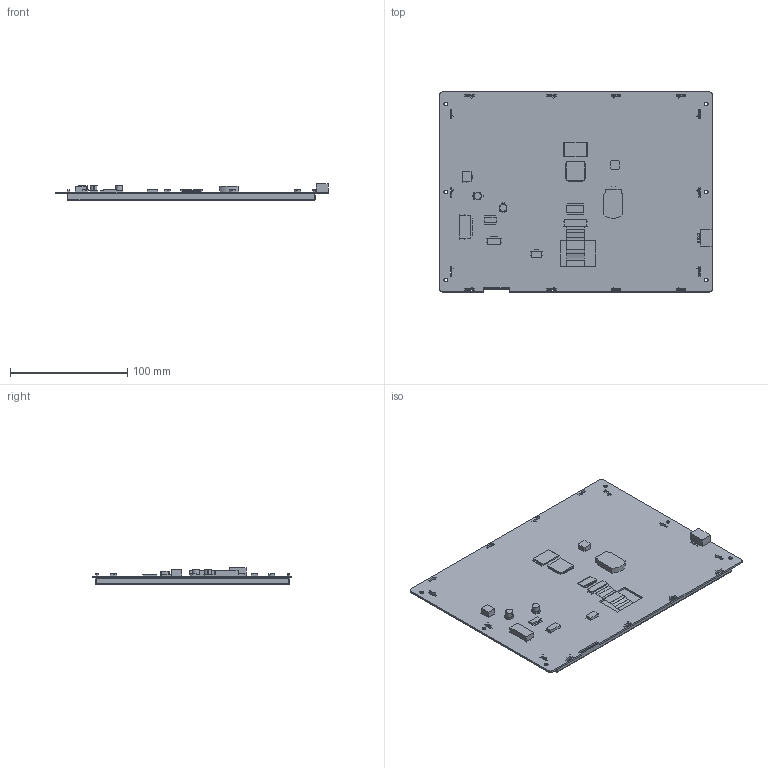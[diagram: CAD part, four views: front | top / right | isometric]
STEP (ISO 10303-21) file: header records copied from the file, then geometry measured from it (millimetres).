
FILE_DESCRIPTION(/* description */ (''),/* implementation_level */ '2;1');
FILE_NAME(/* name */ '3D_SDWe097T87N.stp',/* time_stamp */ '2020-09-29T19:54:39+08:00',/* author */ (''),/* organization */ (''),/* preprocessor_version */ 'ST-DEVELOPER v15',/* originating_system */ 'SIEMENS PLM Software NX 8.5',/* authorisation */ '');
FILE_SCHEMA (('AP203_CONFIGURATION_CONTROLLED_3D_DESIGN_OF_MECHANICAL_PARTS_AND_ASSEMBLIES_MIM_LF { 1 0 10303 403 2 1 2}'));
Length unit declared in the file: millimetre
Products named in the file (1): SDWe097T87
Bounding box: 232.4 x 170.7 x 13.8 mm (x, y, z)
Volume: 228682 mm3; surface area: 191584.6 mm2
Topology: 377 solids, 377 shells, 2432 faces, 5034 edges, 3356 vertices
Faces by surface type: plane 2367, cylinder 61, extrusion 4
Full cylindrical faces by diameter (mm): 3.2 x6
Entity records: 68527 total; most frequent: CARTESIAN_POINT 11050, ORIENTED_EDGE 10048, DIRECTION 9997, EDGE_CURVE 5024, VECTOR 4895, LINE 4891, VERTEX_POINT 3356, AXIS2_PLACEMENT_3D 2551
